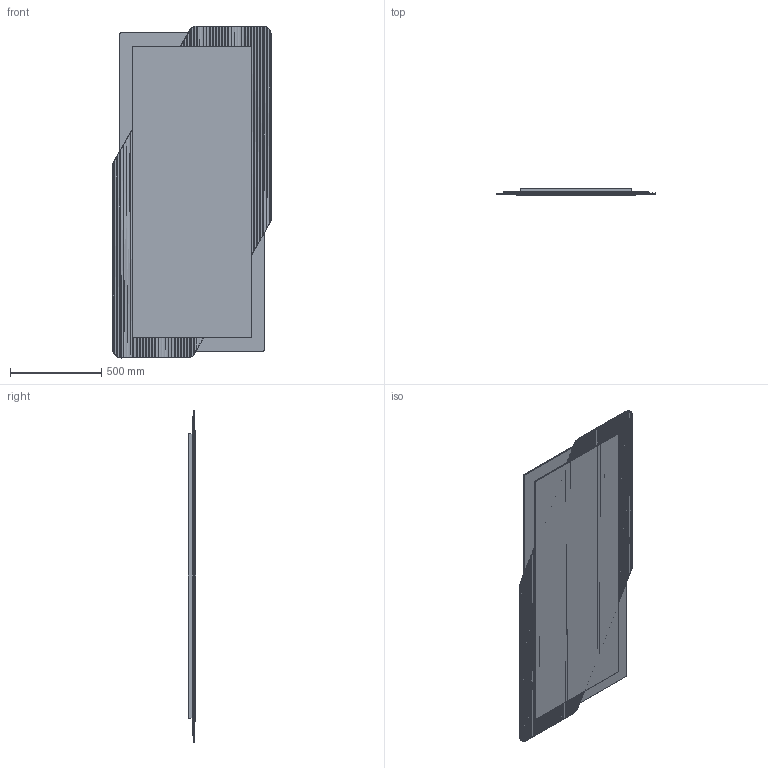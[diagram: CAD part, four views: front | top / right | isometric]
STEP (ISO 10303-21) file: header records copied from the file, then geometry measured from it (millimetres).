
FILE_DESCRIPTION(/* description */ (''),/* implementation_level */ '2;1');
FILE_NAME(/* name */ '3D_SHI~1',/* time_stamp */ '2024-04-29T18:34:27+02:00',/* author */ (''),/* organization */ (''),/* preprocessor_version */ 'ST-DEVELOPER v16.5',/* originating_system */ '',/* authorisation */ '');
FILE_SCHEMA (('AUTOMOTIVE_DESIGN'));
Length unit declared in the file: millimetre
Products named in the file (1): Document
Bounding box: 870.02 x 38.51 x 1819.95 mm (x, y, z)
Volume: 24299520.5 mm3; surface area: 8106338.1 mm2
Topology: 4 solids, 4 shells, 745 faces, 1947 edges, 1210 vertices
Faces by surface type: bspline 709, plane 36
Entity records: 27318 total; most frequent: CARTESIAN_POINT 17277, ORIENTED_EDGE 3894, EDGE_CURVE 1947, VERTEX_POINT 1210, EDGE_LOOP 747, ADVANCED_FACE 745, FACE_OUTER_BOUND 745, B_SPLINE_CURVE_WITH_KNOTS 576
